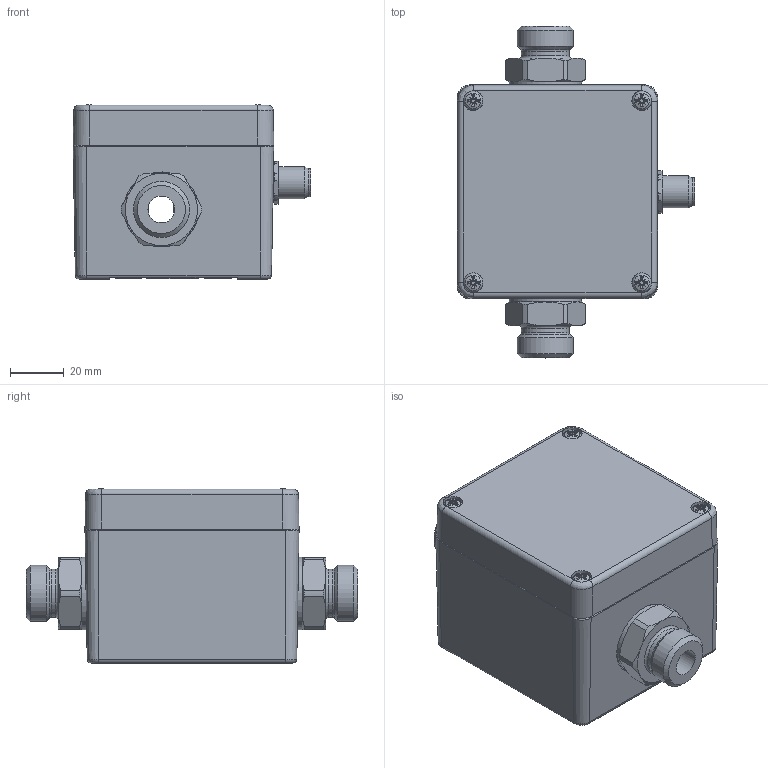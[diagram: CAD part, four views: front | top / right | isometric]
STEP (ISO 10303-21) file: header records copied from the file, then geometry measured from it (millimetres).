
FILE_DESCRIPTION(/* description */ (''),/* implementation_level */ '2;1');
FILE_NAME(/* name */ 'C:\Users\Kuelper\Desktop\VMI10ASS00YGX000.stp',/* time_stamp */ '2018-04-12T07:34:37+02:00',/* author */ ('Kuelper'),/* organization */ (''),/* preprocessor_version */ 'ST-DEVELOPER v15.2',/* originating_system */ 'Autodesk Inventor 2014',/* authorisation */ '');
FILE_SCHEMA (('AUTOMOTIVE_DESIGN { 1 0 10303 214 3 1 1 }'));
Products named in the file (1): Durchflusssensor_VMI10-Y_MID-0462_00292834
Bounding box: 88.88 x 124 x 65.04 mm (x, y, z)
Volume: 2497.2 mm3; surface area: 113452.9 mm2
Topology: 44 solids, 53 shells, 2977 faces, 7614 edges, 4892 vertices
Faces by surface type: plane 1627, bspline 538, cylinder 462, cone 220, torus 102, sphere 28
Full cylindrical faces by diameter (mm): 0.42 x10, 0.8 x5, 1 x17, 1.1 x2, 1.2 x1, 1.4 x5, 1.5 x2, 1.7 x2, 1.8 x4, 2 x10, 2.25 x4, 2.8 x1, 3 x4, 3.242 x11, 3.3 x4, 3.5 x4, 3.55 x2, 4 x4, 4.2 x2, 4.6 x4, 5.2 x1, 5.3 x1, 7 x2, 7.2 x4, 7.4 x4, 7.5 x2, 8.3 x1, 10 x3, 10.1 x1, 10.5 x1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
Entity records: 110079 total; most frequent: CARTESIAN_POINT 39977, ORIENTED_EDGE 14476, DIRECTION 12244, EDGE_CURVE 7209, VERTEX_POINT 4796, LINE 4290, VECTOR 4290, AXIS2_PLACEMENT_3D 3977
